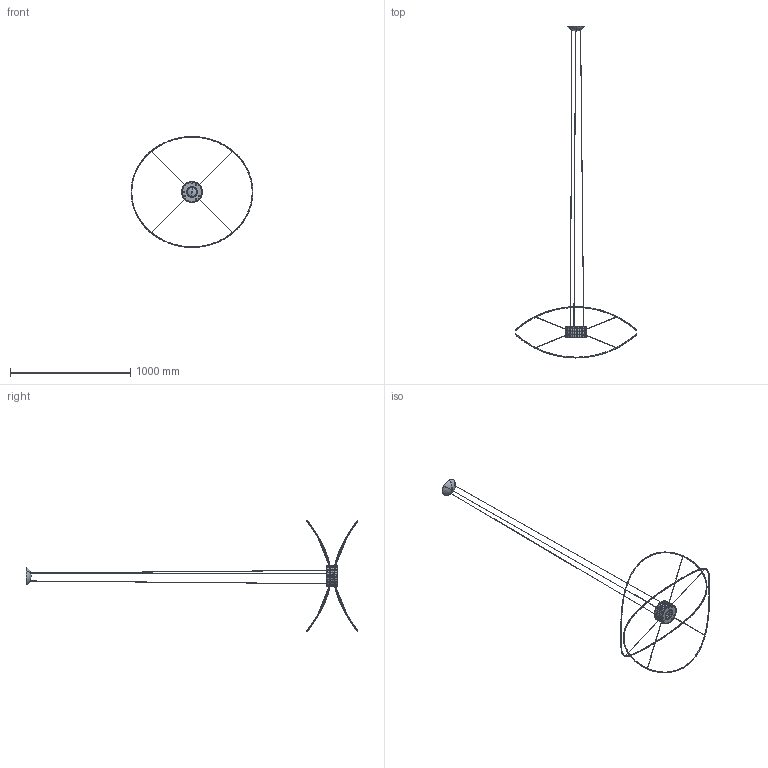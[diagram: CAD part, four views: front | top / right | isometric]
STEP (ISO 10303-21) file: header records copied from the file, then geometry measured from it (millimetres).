
FILE_DESCRIPTION (( 'STEP AP203' ), '1' );
FILE_NAME ('SPHOOPS2XXXXLED-3D.STEP', '2015-02-24T18:55:08', ( '' ), ( '' ), 'SwSTEP 2.0', 'SolidWorks 2014', '' );
FILE_SCHEMA (( 'CONFIG_CONTROL_DESIGN' ));
Length unit declared in the file: millimetre
Products named in the file (15): WSAXO018CMHB014500; WSAXO018CMHB010000; WSAXO018CMHH010000; WSAXO018CMHG010000; WSAXO018CMJC014500; WSAXO018CMFB010000; MSPHOOPSLED-02-3D; WSAXO018CMCA014501; WSAXO018CMCE014502; WSCA10493000B2930B; ROSONESPHOOPSLED-3D; WSAXO018CMCI010001; MSPHOOPSLED-03-3D; MSPHOOPSLED-3D; SPHOOPS2XXXXLED-3D
Assembly tree (29 placements, depth 4):
  SPHOOPS2XXXXLED-3D
    WSAXO018CMHB014500  x10
    WSAXO018CMJC014500  x2
      WSAXO018CMHB010000
      WSAXO018CMHH010000
      WSAXO018CMHG010000
    MSPHOOPSLED-3D
      MSPHOOPSLED-02-3D
        WSAXO018CMFB010000
      WSAXO018CMCA014501
      WSAXO018CMCE014502
      WSCA10493000B2930B  x3
      ROSONESPHOOPSLED-3D
      MSPHOOPSLED-03-3D
        WSAXO018CMCI010001
Bounding box: 1012 x 2757.41 x 920.95 mm (x, y, z)
Volume: 562461.4 mm3; surface area: 551243.7 mm2
Topology: 31 solids, 31 shells, 486 faces, 1259 edges, 812 vertices
Faces by surface type: cylinder 296, plane 102, torus 70, cone 10, bspline 8
Entity records: 15989 total; most frequent: CARTESIAN_POINT 3190, DIRECTION 2509, ORIENTED_EDGE 2178, EDGE_CURVE 1089, AXIS2_PLACEMENT_3D 1032, VERTEX_POINT 716, CIRCLE 608, EDGE_LOOP 475
